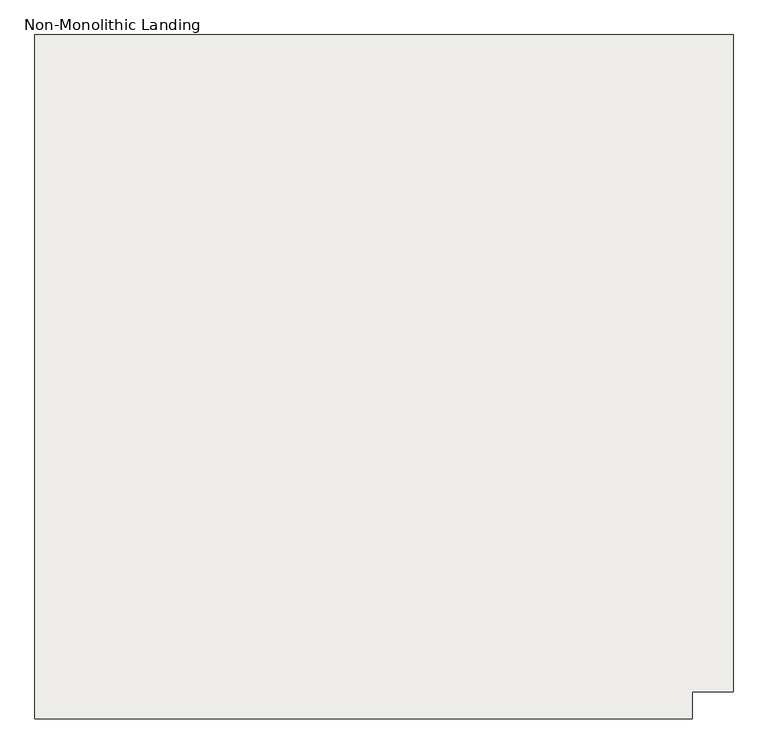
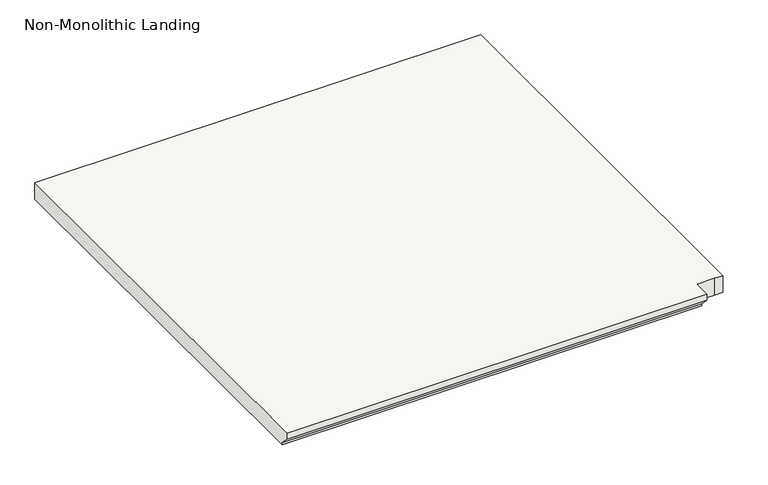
"""IFC4 building model written with IfcOpenShell, lengths in millimetres: slab geometry, Non-Monolithic Landing."""

import ifcopenshell
import ifcopenshell.guid

model = None  # the IFC model being written
_history = None  # IfcOwnerHistory: only IFC2X3 demands one
_inside = {}  # id of a spatial element -> (the spatial element, [elements in it])
_under = {}  # id of a project, library or spatial element -> (it, [spatial elements below it])
_declared = {}  # id of a project -> (the project, [libraries it declares])
_typed = {}  # id of a type object -> (the type object, [elements of that type])
_made_of = {}  # id of a material, layer set ... -> (it, [elements and type objects made of it])


def new_model(schema):
    """Start an empty IFC model of exactly this schema.

    Asked for "IFC4X3", IfcOpenShell would pick the latest addendum, in which some entities
    have other attributes; the version numbers below select the first issue.
    IFC2X3 requires an IfcOwnerHistory on every rooted entity: one is made here for all.
    """
    global model, _history
    if schema == "IFC4X3":
        model = ifcopenshell.file(schema_version=(4, 3, 0, 0))
    else:
        model = ifcopenshell.file(schema=schema)
    _inside.clear()
    _under.clear()
    _declared.clear()
    _typed.clear()
    _made_of.clear()
    _history = None
    if model.schema == "IFC2X3":
        org = make("IfcOrganization", Name="unknown")
        user = make(
            "IfcPersonAndOrganization",
            ThePerson=make("IfcPerson", FamilyName="unknown"),
            TheOrganization=org,
        )
        app = make(
            "IfcApplication",
            ApplicationDeveloper=org,
            Version="unknown",
            ApplicationFullName="unknown",
            ApplicationIdentifier="unknown",
        )
        _history = make(
            "IfcOwnerHistory",
            OwningUser=user,
            OwningApplication=app,
            ChangeAction="ADDED",
            CreationDate=0,
        )
    return model


def make(cls, **values):
    """One entity of the class cls with the attributes given. An attribute that is None is left unset."""
    return model.create_entity(
        cls, **{name: value for name, value in values.items() if value is not None}
    )


def rooted(cls, **values):
    """An entity with a GlobalId (a new one), such as an element, a storey or a relation."""
    return make(cls, GlobalId=ifcopenshell.guid.new(), OwnerHistory=_history, **values)


def si_unit(unit_type, name, prefix=None):
    """IfcSIUnit, for example si_unit("LENGTHUNIT", "METRE", prefix="MILLI")."""
    return make("IfcSIUnit", UnitType=unit_type, Prefix=prefix, Name=name)


def assignment(units):
    """IfcUnitAssignment: the units of a project."""
    return None if units is None else make("IfcUnitAssignment", Units=units)


def point(xyz):
    """IfcCartesianPoint."""
    return None if xyz is None else make("IfcCartesianPoint", Coordinates=xyz)


def direction(xyz):
    """IfcDirection."""
    return None if xyz is None else make("IfcDirection", DirectionRatios=xyz)


def frame(location, z_axis=None, x_axis=None):
    """IfcAxis2Placement3D, a coordinate frame: its origin and axes. An axis left out is left unset."""
    return make(
        "IfcAxis2Placement3D",
        Location=point(location),
        Axis=direction(z_axis),
        RefDirection=direction(x_axis),
    )


def origin():
    """The frame at (0, 0, 0) with its axes left unset."""
    return frame((0.0, 0.0, 0.0))


def place(relative_to, where):
    """IfcLocalPlacement: puts the frame where relative to a parent placement (None: the world)."""
    return make(
        "IfcLocalPlacement", PlacementRelTo=relative_to, RelativePlacement=where
    )


def context(
    kind, dimensions, precision=None, world=None, true_north=None, identifier=None
):
    """IfcGeometricRepresentationContext, for example the 3D "Model" context."""
    return make(
        "IfcGeometricRepresentationContext",
        ContextIdentifier=identifier,
        ContextType=kind,
        CoordinateSpaceDimension=dimensions,
        Precision=precision,
        WorldCoordinateSystem=world,
        TrueNorth=true_north,
    )


def project(units=None, contexts=None):
    """IfcProject with its units and contexts."""
    return rooted(
        "IfcProject",
        Name="project",
        RepresentationContexts=contexts,
        UnitsInContext=assignment(units),
    )


def spatial(cls, under=None, at=None, **own):
    """A site, building, storey or space (cls), placed at a placement, below another one or the project."""
    s = rooted(cls, ObjectPlacement=at, **own)
    if under is not None:
        _under.setdefault(under.id(), (under, []))[1].append(s)
    return s


def faces_of(points, faces, orient=None, outer=None):
    """IfcFace entities. A face is a list of loops; a loop is a list of indices into points, from 0.

    orient and outer hold one flag for each loop. By default every Orientation is true, the
    first loop of a face is its IfcFaceOuterBound and the others are IfcFaceBound.
    """
    made = []
    for i, loops in enumerate(faces):
        bounds = []
        for j, loop in enumerate(loops):
            is_outer = j == 0 if outer is None else outer[i][j]
            bounds.append(
                make(
                    "IfcFaceOuterBound" if is_outer else "IfcFaceBound",
                    Bound=make("IfcPolyLoop", Polygon=[points[k] for k in loop]),
                    Orientation=True if orient is None else orient[i][j],
                )
            )
        made.append(make("IfcFace", Bounds=bounds))
    return made


def faceted_brep(points, faces, orient=None, outer=None, voids=None):
    """IfcFacetedBrep: a solid bounded by flat faces; with voids (closed shells), ...WithVoids."""
    shared = [point(p) for p in points]
    hull = make("IfcClosedShell", CfsFaces=faces_of(shared, faces, orient, outer))
    if voids is None:
        return make("IfcFacetedBrep", Outer=hull)
    return make(
        "IfcFacetedBrepWithVoids",
        Outer=hull,
        Voids=[
            make(cls, CfsFaces=faces_of(shared, fs, o, b)) for cls, fs, o, b in voids
        ],
    )


def shape(context_of_items, identifier, shape_type, items):
    """IfcShapeRepresentation: the items that make up one representation, for example the "Body"."""
    return make(
        "IfcShapeRepresentation",
        ContextOfItems=context_of_items,
        RepresentationIdentifier=identifier,
        RepresentationType=shape_type,
        Items=items,
    )


def source(mapping_origin, context_of_items, identifier, shape_type, items):
    """IfcRepresentationMap: a shape defined once, which mapped items show again and again."""
    return make(
        "IfcRepresentationMap",
        MappingOrigin=mapping_origin,
        MappedRepresentation=shape(context_of_items, identifier, shape_type, items),
    )


def transform(
    local_origin,
    x_axis=None,
    y_axis=None,
    z_axis=None,
    scale=None,
    scale2=None,
    scale3=None,
    uniform=True,
):
    """IfcCartesianTransformationOperator3D, or its non-uniform kind. x_axis, y_axis, z_axis: its Axis1, 2, 3."""
    if uniform:
        return make(
            "IfcCartesianTransformationOperator3D",
            Axis1=direction(x_axis),
            Axis2=direction(y_axis),
            LocalOrigin=point(local_origin),
            Scale=scale,
            Axis3=direction(z_axis),
        )
    return make(
        "IfcCartesianTransformationOperator3DnonUniform",
        Axis1=direction(x_axis),
        Axis2=direction(y_axis),
        LocalOrigin=point(local_origin),
        Scale=scale,
        Axis3=direction(z_axis),
        Scale2=scale2,
        Scale3=scale3,
    )


def mapped(mapping_source, mapping_target):
    """IfcMappedItem: shows the shape of a source again, moved by a transform."""
    return make(
        "IfcMappedItem", MappingSource=mapping_source, MappingTarget=mapping_target
    )


def made_of(thing, what):
    """Note that an element or type object is made of a material, layer set ...; save() writes the relation."""
    if what is not None:
        _made_of.setdefault(what.id(), (what, []))[1].append(thing)
    return thing


def element(
    cls,
    number,
    at=None,
    inside=None,
    cuts=None,
    type_object=None,
    material=None,
    context=None,
    identifier="Body",
    shape_type=None,
    held_by="IfcProductDefinitionShape",
    body=None,
    shapes=None,
    **own,
):
    """One element of the class cls, such as IfcWall. Its Tag is "e" and its number.

    at: its placement. inside: the storey or other place that contains it. cuts: it is an
    opening in that element (IfcRelVoidsElement). A single representation is given by context,
    identifier, shape_type and body (its items); several are given by shapes. held_by: the class
    of the entity that holds the representations. save() writes the other relations.
    """
    e = rooted(cls, Tag="e%d" % number, ObjectPlacement=at, **own)
    if body is not None:
        shapes = [shape(context, identifier, shape_type, body)]
    if shapes is not None:
        e.Representation = make(held_by, Representations=shapes)
    if inside is not None:
        _inside.setdefault(inside.id(), (inside, []))[1].append(e)
    if cuts is not None:
        rooted(
            "IfcRelVoidsElement", RelatingBuildingElement=cuts, RelatedOpeningElement=e
        )
    if type_object is not None:
        _typed.setdefault(type_object.id(), (type_object, []))[1].append(e)
    return made_of(e, material)


def aggregate(whole, parts):
    """IfcRelAggregates: a whole, such as a stair, and the parts it consists of."""
    return rooted("IfcRelAggregates", RelatingObject=whole, RelatedObjects=parts)


def save(model, path):
    """Write the relations noted so far, then the file.

    IfcRelAggregates (storeys below a building ...), IfcRelContainedInSpatialStructure (elements
    in a storey), IfcRelDefinesByType, IfcRelAssociatesMaterial and IfcRelDeclares: one each for
    every whole, place, type object, material and project.
    """
    for whole, parts in _under.values():
        aggregate(whole, parts)
    for where, things in _inside.values():
        rooted(
            "IfcRelContainedInSpatialStructure",
            RelatedElements=things,
            RelatingStructure=where,
        )
    for kind, things in _typed.values():
        rooted("IfcRelDefinesByType", RelatedObjects=things, RelatingType=kind)
    for what, things in _made_of.values():
        rooted("IfcRelAssociatesMaterial", RelatedObjects=things, RelatingMaterial=what)
    for by, libraries in _declared.values():
        rooted("IfcRelDeclares", RelatingContext=by, RelatedDefinitions=libraries)
    model.write(path)


def non_monolithic_landing_a68ce703(model_context):
    return source(origin(), model_context, "Body", "Brep", [
        faceted_brep([(-17871.7273699, -12263.6253362, 2724.15), (-17871.7273699, -12263.6253362, 2743.2), (-19090.9273699, -12263.6253362, 2743.2), (-19090.9273699, -12263.6253362, 2724.15), (-17871.7273699, -12238.2253362, 2698.75), (-19090.9273699, -12238.2253362, 2698.75), (-17871.7273699, -12212.8253362, 2743.2), (-17820.9273699, -12212.8253362, 2743.2), (-17795.5273699, -12212.8253362, 2743.2), (-17795.5273699, -10993.6253362, 2743.2), (-17820.9273699, -10993.6253362, 2743.2), (-19090.9273699, -10993.6253362, 2743.2), (-17871.7273699, -12238.2253362, 2692.4), (-19090.9273699, -12238.2253362, 2692.4), (-19090.9273699, -10993.6253362, 2692.4), (-17820.9273699, -10993.6253362, 2692.4), (-17795.5273699, -10993.6253362, 2692.4), (-17795.5273699, -12212.8253362, 2692.4), (-17820.9273699, -12212.8253362, 2692.4), (-17871.7273699, -12212.8253362, 2692.4)], [[[0, 1, 2, 3]], [[4, 0, 3, 5]], [[6, 7, 8, 9, 10, 11, 2, 1]], [[12, 13, 14, 15, 16, 17, 18, 19]], [[13, 12, 4, 5]], [[6, 1, 0, 4, 12, 19]], [[7, 6, 19, 18]], [[8, 7, 18, 17]], [[9, 8, 17, 16]], [[10, 9, 16, 15]], [[11, 10, 15, 14]], [[2, 11, 14, 13, 5, 3]]]),
    ])


if __name__ == "__main__":
    model = new_model("IFC4")
    model_context = context("Model", 3, world=origin())
    ifc_project = project(units=[si_unit("LENGTHUNIT", "METRE", prefix="MILLI")], contexts=[model_context])
    site = spatial("IfcSite", under=ifc_project)
    building = spatial("IfcBuilding", under=site)
    placement = place(None, origin())
    non_monolithic_landing_shape = non_monolithic_landing_a68ce703(model_context)
    element("IfcSlab", 1, ObjectType="Non-Monolithic Landing", at=placement, inside=building, context=model_context, shape_type="MappedRepresentation", body=[
        mapped(non_monolithic_landing_shape, transform((0.0, 0.0, 0.0), x_axis=(1.0, 0.0, 0.0), y_axis=(0.0, 1.0, 0.0), z_axis=(0.0, 0.0, 1.0))),
    ])
    save(model, "model.ifc")
